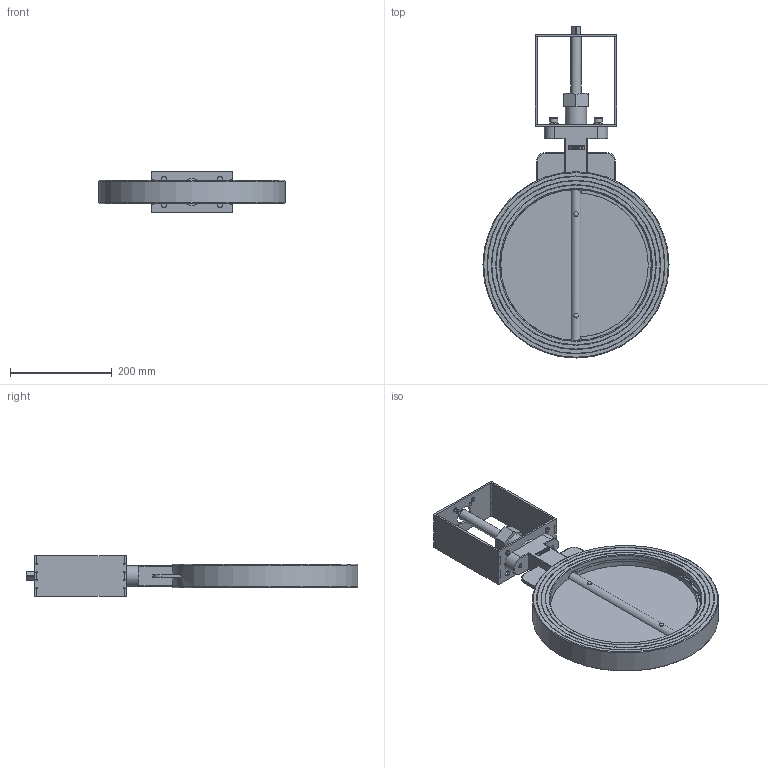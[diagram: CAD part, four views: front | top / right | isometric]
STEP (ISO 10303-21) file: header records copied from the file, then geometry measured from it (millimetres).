
FILE_DESCRIPTION(/* description */ (''),/* implementation_level */ '2;1');
FILE_NAME(/* name */ 'C:\Users\miv\Desktop\Typ 5k DN300\Typ 5k DN300 Anschlagleiste.stp',/* time_stamp */ '2015-10-27T16:13:18+01:00',/* author */ ('Technik-3D'),/* organization */ (''),/* preprocessor_version */ 'ST-DEVELOPER v16.1',/* originating_system */ 'Autodesk Inventor 2016',/* authorisation */ '');
FILE_SCHEMA (('AUTOMOTIVE_DESIGN { 1 0 10303 214 3 1 1 }'));
Length unit declared in the file: millimetre
Products named in the file (15): Graphitbuchse d=20; Stopfbuchse d=20 MS; ISO 49 Kappe T1 1 1_4; Konsole F05,07 ab DN200_Schweißnähte; Unterteil Konsole F05, F07, ST; Seitenteil F05, F07, ST; Oberteil Konsole F05, F07, ST; Konsole F05,07 ab DN200; DIN 127 - A 10; M 10x30; Welle DN300; Ronde DN300; DIN 660 - A 5 x 30 x 20; Gussring DN300 AS; Typ 5k DN300
Assembly tree (19 placements, depth 3):
  Typ 5k DN300
    Graphitbuchse d=20  x2
    Stopfbuchse d=20 MS
    ISO 49 Kappe T1 1 1_4
    Konsole F05,07 ab DN200
      Konsole F05,07 ab DN200_Schweißnähte
      Unterteil Konsole F05, F07, ST
      Seitenteil F05, F07, ST  x2
      Oberteil Konsole F05, F07, ST
    DIN 127 - A 10  x2
    M 10x30  x2
    Welle DN300
    Ronde DN300
    DIN 660 - A 5 x 30 x 20  x2
    Gussring DN300 AS
Bounding box: 366 x 653 x 80 mm (x, y, z)
Volume: 2703314.8 mm3; surface area: 570295 mm2
Topology: 21 solids, 21 shells, 466 faces, 1171 edges, 773 vertices
Faces by surface type: plane 240, cylinder 125, bspline 51, cone 38, torus 8, sphere 4
Full cylindrical faces by diameter (mm): 5 x8, 7 x4, 8.376 x2, 9 x4, 10 x2, 11 x4, 12 x2, 16 x2, 20 x4, 20.5 x3, 29.5 x1, 30 x3, 33 x1, 37 x1, 41.5 x1, 52 x1, 296 x1, 298 x2, 314 x2, 316 x2, 331 x2, 333 x2, 348 x2, 350 x2, 366 x1
Entity records: 12455 total; most frequent: CARTESIAN_POINT 3037, ORIENTED_EDGE 1812, DIRECTION 1759, EDGE_CURVE 906, AXIS2_PLACEMENT_3D 637, VERTEX_POINT 635, EDGE_LOOP 557, LINE 485
